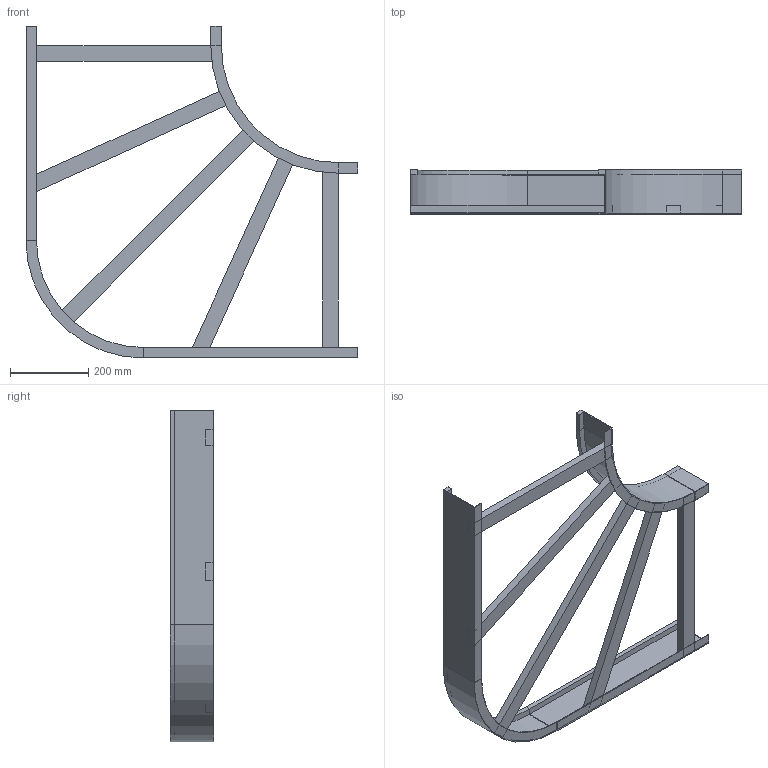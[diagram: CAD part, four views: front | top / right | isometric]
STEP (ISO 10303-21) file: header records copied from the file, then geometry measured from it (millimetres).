
FILE_DESCRIPTION (( 'STEP AP214' ), '1' );
FILE_NAME ('B2_10B3J500.step', '2025-02-21T15:25:18', ( '' ), ( '' ), 'SwSTEP 2.0', 'SolidWorks 2023', '' );
FILE_SCHEMA (( 'AUTOMOTIVE_DESIGN' ));
Length unit declared in the file: millimetre
Products named in the file (6): B2_LONGH.ESTERNO 90°_H112.5_R300+500; TRAVERSINO_600_SCANTONATO; TRAVERSINO_L701; TRAVERSINO_500; B2_10B3J500; B2_LONGH.INTERNO 90°_H112.5_R300
Assembly tree (7 placements, depth 2):
  B2_10B3J500
    B2_LONGH.INTERNO 90°_H112.5_R300
    B2_LONGH.ESTERNO 90°_H112.5_R300+500
    TRAVERSINO_500  x2
    TRAVERSINO_600_SCANTONATO  x2
    TRAVERSINO_L701
Bounding box: 850 x 112.5 x 850 mm (x, y, z)
Volume: 3304177.1 mm3; surface area: 1020572 mm2
Topology: 7 solids, 7 shells, 82 faces, 172 edges, 104 vertices
Faces by surface type: plane 74, cylinder 8
Entity records: 2015 total; most frequent: DIRECTION 324, CARTESIAN_POINT 316, ORIENTED_EDGE 296, EDGE_CURVE 148, VECTOR 132, LINE 132, AXIS2_PLACEMENT_3D 96, VERTEX_POINT 88
